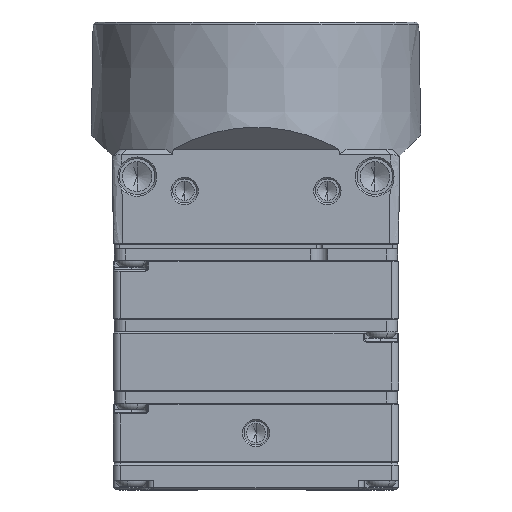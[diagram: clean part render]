
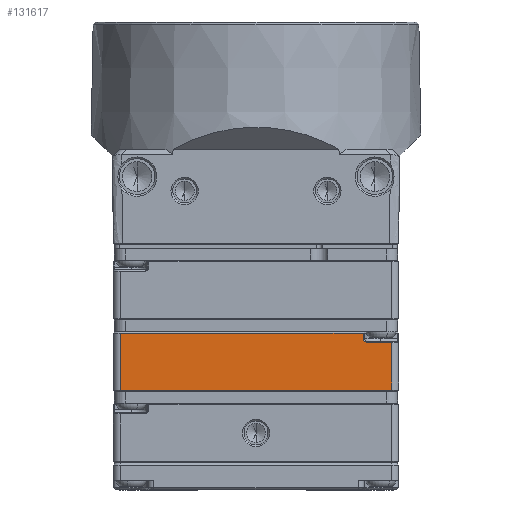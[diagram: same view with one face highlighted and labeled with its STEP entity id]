
A CAD part, front view. The second image highlights one B-rep face of the part: STEP entity #131617.
In plain terms, the highlighted planar face has unit normal (0, -1, 0).
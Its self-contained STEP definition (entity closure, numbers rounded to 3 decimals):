
#2722 = VECTOR ( 'NONE', #26533, 1000. ) ;
#2732 = CARTESIAN_POINT ( 'NONE',  ( 11.4, -12., -8.25 ) ) ;
#4316 = CARTESIAN_POINT ( 'NONE',  ( 12., -12., -8.25 ) ) ;
#10778 = ORIENTED_EDGE ( 'NONE', *, *, #107759, .T. ) ;
#11747 = LINE ( 'NONE', #119645, #101420 ) ;
#12768 = DIRECTION ( 'NONE',  ( 1., 0., 0. ) ) ;
#22591 = VERTEX_POINT ( 'NONE', #2732 ) ;
#25018 = EDGE_CURVE ( 'NONE', #121977, #150895, #102690, .T. ) ;
#26533 = DIRECTION ( 'NONE',  ( -1., 0., 0. ) ) ;
#29949 = ORIENTED_EDGE ( 'NONE', *, *, #48991, .T. ) ;
#30121 = CARTESIAN_POINT ( 'NONE',  ( -11.4, -12., -9.35 ) ) ;
#31175 = EDGE_LOOP ( 'NONE', ( #156401, #10778, #104427, #49611, #105221, #67556, #29949 ) ) ;
#32493 = EDGE_CURVE ( 'NONE', #150895, #150880, #101104, .T. ) ;
#44002 = VECTOR ( 'NONE', #53753, 1000. ) ;
#44217 = VERTEX_POINT ( 'NONE', #103071 ) ;
#44892 = DIRECTION ( 'NONE',  ( 0., 0., 1. ) ) ;
#47414 = AXIS2_PLACEMENT_3D ( 'NONE', #82137, #156705, #44892 ) ;
#48991 = EDGE_CURVE ( 'NONE', #151090, #44217, #86557, .T. ) ;
#49611 = ORIENTED_EDGE ( 'NONE', *, *, #25018, .T. ) ;
#53753 = DIRECTION ( 'NONE',  ( -1., 0., 0. ) ) ;
#56818 = CARTESIAN_POINT ( 'NONE',  ( 9.369, -12., -8.25 ) ) ;
#57421 = CARTESIAN_POINT ( 'NONE',  ( -11.4, -12., -12.25 ) ) ;
#59942 = FACE_OUTER_BOUND ( 'NONE', #31175, .T. ) ;
#67556 = ORIENTED_EDGE ( 'NONE', *, *, #71490, .T. ) ;
#71490 = EDGE_CURVE ( 'NONE', #150880, #151090, #129007, .T. ) ;
#76142 = CARTESIAN_POINT ( 'NONE',  ( -11.4, -12., -7.45 ) ) ;
#81156 = DIRECTION ( 'NONE',  ( 0., 0., -1. ) ) ;
#82031 = CARTESIAN_POINT ( 'NONE',  ( 9.073, -12., -9.452 ) ) ;
#82137 = CARTESIAN_POINT ( 'NONE',  ( 9.369, -12., -7.9 ) ) ;
#84436 = DIRECTION ( 'NONE',  ( -0.035, 0., 0.999 ) ) ;
#86557 = LINE ( 'NONE', #98708, #136162 ) ;
#95634 = VERTEX_POINT ( 'NONE', #56818 ) ;
#98708 = CARTESIAN_POINT ( 'NONE',  ( 12., -12., -12.25 ) ) ;
#101104 = LINE ( 'NONE', #137565, #2722 ) ;
#101420 = VECTOR ( 'NONE', #133367, 1000. ) ;
#102690 = LINE ( 'NONE', #82031, #111690 ) ;
#103071 = CARTESIAN_POINT ( 'NONE',  ( 11.4, -12., -12.25 ) ) ;
#104427 = ORIENTED_EDGE ( 'NONE', *, *, #155969, .T. ) ;
#105221 = ORIENTED_EDGE ( 'NONE', *, *, #32493, .T. ) ;
#107759 = EDGE_CURVE ( 'NONE', #22591, #95634, #115384, .T. ) ;
#111024 = PLANE ( 'NONE',  #116946 ) ;
#111690 = VECTOR ( 'NONE', #84436, 1000. ) ;
#113450 = CARTESIAN_POINT ( 'NONE',  ( 9.003, -12., -7.45 ) ) ;
#115384 = LINE ( 'NONE', #4316, #44002 ) ;
#116946 = AXIS2_PLACEMENT_3D ( 'NONE', #158033, #147489, #146678 ) ;
#119645 = CARTESIAN_POINT ( 'NONE',  ( 11.4, -12., -9.35 ) ) ;
#121977 = VERTEX_POINT ( 'NONE', #154898 ) ;
#129007 = LINE ( 'NONE', #30121, #137559 ) ;
#131617 = ADVANCED_FACE ( 'NONE', ( #59942 ), #111024, .F. ) ;
#133367 = DIRECTION ( 'NONE',  ( 0., 0., 1. ) ) ;
#133656 = EDGE_CURVE ( 'NONE', #44217, #22591, #11747, .T. ) ;
#136162 = VECTOR ( 'NONE', #12768, 1000. ) ;
#137559 = VECTOR ( 'NONE', #81156, 1000. ) ;
#137565 = CARTESIAN_POINT ( 'NONE',  ( 12., -12., -7.45 ) ) ;
#140553 = CIRCLE ( 'NONE', #47414, 0.35 ) ;
#146678 = DIRECTION ( 'NONE',  ( 0., 0., 1. ) ) ;
#147489 = DIRECTION ( 'NONE',  ( 0., 1., 0. ) ) ;
#150880 = VERTEX_POINT ( 'NONE', #76142 ) ;
#150895 = VERTEX_POINT ( 'NONE', #113450 ) ;
#151090 = VERTEX_POINT ( 'NONE', #57421 ) ;
#154898 = CARTESIAN_POINT ( 'NONE',  ( 9.02, -12., -7.912 ) ) ;
#155969 = EDGE_CURVE ( 'NONE', #95634, #121977, #140553, .T. ) ;
#156401 = ORIENTED_EDGE ( 'NONE', *, *, #133656, .T. ) ;
#156705 = DIRECTION ( 'NONE',  ( 0., 1., 0. ) ) ;
#158033 = CARTESIAN_POINT ( 'NONE',  ( 12., -12., -9.35 ) ) ;
